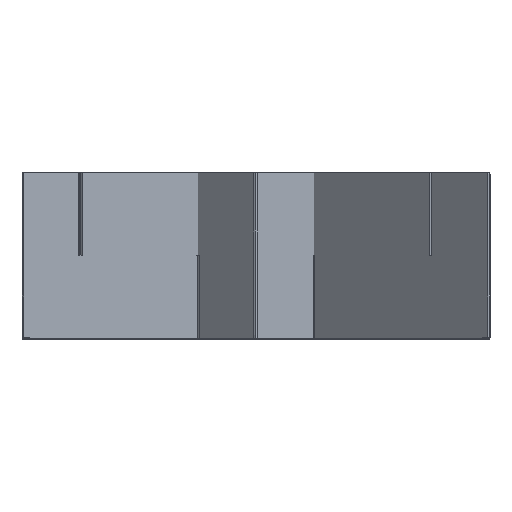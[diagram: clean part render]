
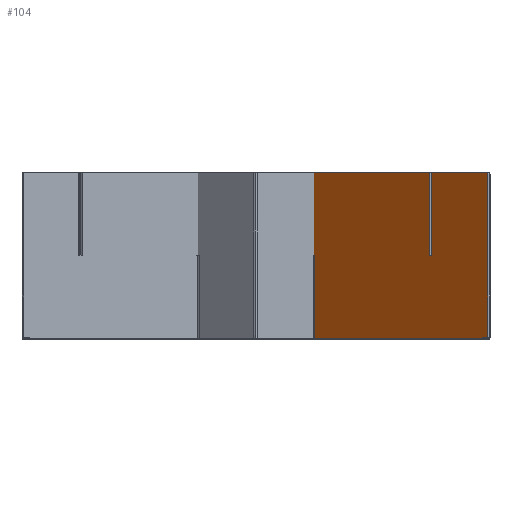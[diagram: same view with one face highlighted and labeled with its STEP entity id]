
A CAD part, top view. The second image highlights one B-rep face of the part: STEP entity #104.
In plain terms, the highlighted planar face has unit normal (-0.707, 0, 0.707).
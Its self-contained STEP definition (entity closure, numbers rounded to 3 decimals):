
#104=ADVANCED_FACE('',(#332),#3894,.T.);
#332=FACE_OUTER_BOUND('',#560,.T.);
#560=EDGE_LOOP('',(#913,#914,#915,#916,#917,#918,#919,#920,#921,#922,#923,
#924,#925,#926,#927,#928,#929,#930));
#913=ORIENTED_EDGE('',*,*,#2148,.T.);
#914=ORIENTED_EDGE('',*,*,#2122,.F.);
#915=ORIENTED_EDGE('',*,*,#2094,.F.);
#916=ORIENTED_EDGE('',*,*,#2123,.F.);
#917=ORIENTED_EDGE('',*,*,#2154,.T.);
#918=ORIENTED_EDGE('',*,*,#2115,.F.);
#919=ORIENTED_EDGE('',*,*,#2124,.F.);
#920=ORIENTED_EDGE('',*,*,#2101,.F.);
#921=ORIENTED_EDGE('',*,*,#2157,.T.);
#922=ORIENTED_EDGE('',*,*,#2125,.F.);
#923=ORIENTED_EDGE('',*,*,#2139,.T.);
#924=ORIENTED_EDGE('',*,*,#2105,.F.);
#925=ORIENTED_EDGE('',*,*,#2133,.T.);
#926=ORIENTED_EDGE('',*,*,#2126,.F.);
#927=ORIENTED_EDGE('',*,*,#2151,.T.);
#928=ORIENTED_EDGE('',*,*,#2108,.F.);
#929=ORIENTED_EDGE('',*,*,#2127,.F.);
#930=ORIENTED_EDGE('',*,*,#2098,.F.);
#2094=EDGE_CURVE('',#3362,#3384,#2907,.T.);
#2098=EDGE_CURVE('',#3404,#3402,#2910,.T.);
#2101=EDGE_CURVE('',#3410,#3407,#2913,.T.);
#2105=EDGE_CURVE('',#3416,#3417,#2917,.T.);
#2108=EDGE_CURVE('',#3399,#3423,#2920,.T.);
#2115=EDGE_CURVE('',#3408,#3425,#2927,.T.);
#2122=EDGE_CURVE('',#3384,#3379,#2934,.T.);
#2123=EDGE_CURVE('',#3361,#3362,#2935,.T.);
#2124=EDGE_CURVE('',#3407,#3408,#2936,.T.);
#2125=EDGE_CURVE('',#3411,#3412,#2937,.T.);
#2126=EDGE_CURVE('',#3420,#3421,#2938,.T.);
#2127=EDGE_CURVE('',#3402,#3399,#2939,.T.);
#2133=EDGE_CURVE('',#3416,#3421,#2714,.T.);
#2139=EDGE_CURVE('',#3411,#3417,#2718,.T.);
#2148=EDGE_CURVE('',#3404,#3379,#2723,.T.);
#2151=EDGE_CURVE('',#3420,#3423,#2725,.T.);
#2154=EDGE_CURVE('',#3361,#3425,#2727,.T.);
#2157=EDGE_CURVE('',#3410,#3412,#2729,.T.);
#2714=(
BOUNDED_CURVE()
B_SPLINE_CURVE(2,(#4762,#4763,#4764),.UNSPECIFIED.,.F.,.F.)
B_SPLINE_CURVE_WITH_KNOTS((3,3),(-1.,0.),.UNSPECIFIED.)
CURVE()
GEOMETRIC_REPRESENTATION_ITEM()
RATIONAL_B_SPLINE_CURVE((1.,0.707,1.))
REPRESENTATION_ITEM('')
);
#2718=(
BOUNDED_CURVE()
B_SPLINE_CURVE(2,(#4778,#4779,#4780),.UNSPECIFIED.,.F.,.F.)
B_SPLINE_CURVE_WITH_KNOTS((3,3),(-1.,0.),.UNSPECIFIED.)
CURVE()
GEOMETRIC_REPRESENTATION_ITEM()
RATIONAL_B_SPLINE_CURVE((1.,0.707,1.))
REPRESENTATION_ITEM('')
);
#2723=(
BOUNDED_CURVE()
B_SPLINE_CURVE(2,(#4801,#4802,#4803),.UNSPECIFIED.,.F.,.F.)
B_SPLINE_CURVE_WITH_KNOTS((3,3),(-0.4,0.),.UNSPECIFIED.)
CURVE()
GEOMETRIC_REPRESENTATION_ITEM()
RATIONAL_B_SPLINE_CURVE((1.,0.707,1.))
REPRESENTATION_ITEM('')
);
#2725=(
BOUNDED_CURVE()
B_SPLINE_CURVE(2,(#4809,#4810,#4811),.UNSPECIFIED.,.F.,.F.)
B_SPLINE_CURVE_WITH_KNOTS((3,3),(-0.4,0.),.UNSPECIFIED.)
CURVE()
GEOMETRIC_REPRESENTATION_ITEM()
RATIONAL_B_SPLINE_CURVE((1.,0.707,1.))
REPRESENTATION_ITEM('')
);
#2727=(
BOUNDED_CURVE()
B_SPLINE_CURVE(2,(#4817,#4818,#4819),.UNSPECIFIED.,.F.,.F.)
B_SPLINE_CURVE_WITH_KNOTS((3,3),(-0.4,0.),.UNSPECIFIED.)
CURVE()
GEOMETRIC_REPRESENTATION_ITEM()
RATIONAL_B_SPLINE_CURVE((1.,0.707,1.))
REPRESENTATION_ITEM('')
);
#2729=(
BOUNDED_CURVE()
B_SPLINE_CURVE(2,(#4825,#4826,#4827),.UNSPECIFIED.,.F.,.F.)
B_SPLINE_CURVE_WITH_KNOTS((3,3),(-0.4,0.),.UNSPECIFIED.)
CURVE()
GEOMETRIC_REPRESENTATION_ITEM()
RATIONAL_B_SPLINE_CURVE((1.,0.707,1.))
REPRESENTATION_ITEM('')
);
#2907=B_SPLINE_CURVE_WITH_KNOTS('',1,(#4680,#4681),.UNSPECIFIED.,.F.,.F.,
(2,2),(0.,100.),.UNSPECIFIED.);
#2910=B_SPLINE_CURVE_WITH_KNOTS('',1,(#4689,#4690),.UNSPECIFIED.,.F.,.F.,
(2,2),(0.,49.8),.UNSPECIFIED.);
#2913=B_SPLINE_CURVE_WITH_KNOTS('',1,(#4695,#4696),.UNSPECIFIED.,.F.,.F.,
(2,2),(0.,49.8),.UNSPECIFIED.);
#2917=B_SPLINE_CURVE_WITH_KNOTS('',1,(#4703,#4704),.UNSPECIFIED.,.F.,.F.,
(2,2),(0.,99.),.UNSPECIFIED.);
#2920=B_SPLINE_CURVE_WITH_KNOTS('',1,(#4709,#4710),.UNSPECIFIED.,.F.,.F.,
(2,2),(0.,49.8),.UNSPECIFIED.);
#2927=B_SPLINE_CURVE_WITH_KNOTS('',1,(#4723,#4724),.UNSPECIFIED.,.F.,.F.,
(2,2),(0.,49.8),.UNSPECIFIED.);
#2934=B_SPLINE_CURVE_WITH_KNOTS('',1,(#4737,#4738),.UNSPECIFIED.,.F.,.F.,
(2,2),(-148.28,0.),.UNSPECIFIED.);
#2935=B_SPLINE_CURVE_WITH_KNOTS('',1,(#4739,#4740),.UNSPECIFIED.,.F.,.F.,
(2,2),(-47.8,0.),.UNSPECIFIED.);
#2936=B_SPLINE_CURVE_WITH_KNOTS('',1,(#4741,#4742),.UNSPECIFIED.,.F.,.F.,
(2,2),(-2.,0.),.UNSPECIFIED.);
#2937=B_SPLINE_CURVE_WITH_KNOTS('',1,(#4743,#4744),.UNSPECIFIED.,.F.,.F.,
(2,2),(-147.78,0.),.UNSPECIFIED.);
#2938=B_SPLINE_CURVE_WITH_KNOTS('',1,(#4745,#4746),.UNSPECIFIED.,.F.,.F.,
(2,2),(-47.3,0.),.UNSPECIFIED.);
#2939=B_SPLINE_CURVE_WITH_KNOTS('',1,(#4747,#4748),.UNSPECIFIED.,.F.,.F.,
(2,2),(-2.,0.),.UNSPECIFIED.);
#3361=VERTEX_POINT('',#4541);
#3362=VERTEX_POINT('',#4542);
#3379=VERTEX_POINT('',#4559);
#3384=VERTEX_POINT('',#4564);
#3399=VERTEX_POINT('',#4579);
#3402=VERTEX_POINT('',#4582);
#3404=VERTEX_POINT('',#4584);
#3407=VERTEX_POINT('',#4587);
#3408=VERTEX_POINT('',#4588);
#3410=VERTEX_POINT('',#4590);
#3411=VERTEX_POINT('',#4591);
#3412=VERTEX_POINT('',#4592);
#3416=VERTEX_POINT('',#4596);
#3417=VERTEX_POINT('',#4597);
#3420=VERTEX_POINT('',#4600);
#3421=VERTEX_POINT('',#4601);
#3423=VERTEX_POINT('',#4603);
#3425=VERTEX_POINT('',#4605);
#3894=PLANE('',#4060);
#4060=AXIS2_PLACEMENT_3D('',#4522,#4291,$);
#4291=DIRECTION('',(-0.707,0.,0.707));
#4522=CARTESIAN_POINT('',(-16.018,-63.68,342.523));
#4541=CARTESIAN_POINT('',(31.816,-53.68,390.357));
#4542=CARTESIAN_POINT('',(-1.983,-53.68,356.558));
#4559=CARTESIAN_POINT('',(102.866,46.32,461.407));
#4564=CARTESIAN_POINT('',(-1.983,46.32,356.558));
#4579=CARTESIAN_POINT('',(104.422,-3.68,462.963));
#4582=CARTESIAN_POINT('',(103.008,-3.68,461.549));
#4584=CARTESIAN_POINT('',(103.008,46.12,461.549));
#4587=CARTESIAN_POINT('',(33.372,-3.68,391.913));
#4588=CARTESIAN_POINT('',(31.958,-3.68,390.499));
#4590=CARTESIAN_POINT('',(33.372,-53.48,391.913));
#4591=CARTESIAN_POINT('',(138.01,-53.68,496.551));
#4592=CARTESIAN_POINT('',(33.513,-53.68,392.054));
#4596=CARTESIAN_POINT('',(138.363,45.82,496.904));
#4597=CARTESIAN_POINT('',(138.363,-53.18,496.904));
#4600=CARTESIAN_POINT('',(104.563,46.32,463.104));
#4601=CARTESIAN_POINT('',(138.01,46.32,496.551));
#4603=CARTESIAN_POINT('',(104.422,46.12,462.963));
#4605=CARTESIAN_POINT('',(31.958,-53.48,390.499));
#4680=CARTESIAN_POINT('',(-1.983,-53.68,356.558));
#4681=CARTESIAN_POINT('',(-1.983,46.32,356.558));
#4689=CARTESIAN_POINT('',(103.008,46.12,461.549));
#4690=CARTESIAN_POINT('',(103.008,-3.68,461.549));
#4695=CARTESIAN_POINT('',(33.372,-53.48,391.913));
#4696=CARTESIAN_POINT('',(33.372,-3.68,391.913));
#4703=CARTESIAN_POINT('',(138.363,45.82,496.904));
#4704=CARTESIAN_POINT('',(138.363,-53.18,496.904));
#4709=CARTESIAN_POINT('',(104.422,-3.68,462.963));
#4710=CARTESIAN_POINT('',(104.422,46.12,462.963));
#4723=CARTESIAN_POINT('',(31.958,-3.68,390.499));
#4724=CARTESIAN_POINT('',(31.958,-53.48,390.499));
#4737=CARTESIAN_POINT('',(-1.983,46.32,356.558));
#4738=CARTESIAN_POINT('',(102.866,46.32,461.407));
#4739=CARTESIAN_POINT('',(31.816,-53.68,390.357));
#4740=CARTESIAN_POINT('',(-1.983,-53.68,356.558));
#4741=CARTESIAN_POINT('',(33.372,-3.68,391.913));
#4742=CARTESIAN_POINT('',(31.958,-3.68,390.499));
#4743=CARTESIAN_POINT('',(138.01,-53.68,496.551));
#4744=CARTESIAN_POINT('',(33.513,-53.68,392.054));
#4745=CARTESIAN_POINT('',(104.563,46.32,463.104));
#4746=CARTESIAN_POINT('',(138.01,46.32,496.551));
#4747=CARTESIAN_POINT('',(103.008,-3.68,461.549));
#4748=CARTESIAN_POINT('',(104.422,-3.68,462.963));
#4762=CARTESIAN_POINT('',(138.363,45.82,496.904));
#4763=CARTESIAN_POINT('',(138.363,46.32,496.904));
#4764=CARTESIAN_POINT('',(138.01,46.32,496.551));
#4778=CARTESIAN_POINT('',(138.01,-53.68,496.551));
#4779=CARTESIAN_POINT('',(138.363,-53.68,496.904));
#4780=CARTESIAN_POINT('',(138.363,-53.18,496.904));
#4801=CARTESIAN_POINT('',(103.008,46.12,461.549));
#4802=CARTESIAN_POINT('',(103.008,46.32,461.549));
#4803=CARTESIAN_POINT('',(102.866,46.32,461.407));
#4809=CARTESIAN_POINT('',(104.563,46.32,463.104));
#4810=CARTESIAN_POINT('',(104.422,46.32,462.963));
#4811=CARTESIAN_POINT('',(104.422,46.12,462.963));
#4817=CARTESIAN_POINT('',(31.816,-53.68,390.357));
#4818=CARTESIAN_POINT('',(31.958,-53.68,390.499));
#4819=CARTESIAN_POINT('',(31.958,-53.48,390.499));
#4825=CARTESIAN_POINT('',(33.372,-53.48,391.913));
#4826=CARTESIAN_POINT('',(33.372,-53.68,391.913));
#4827=CARTESIAN_POINT('',(33.513,-53.68,392.054));
